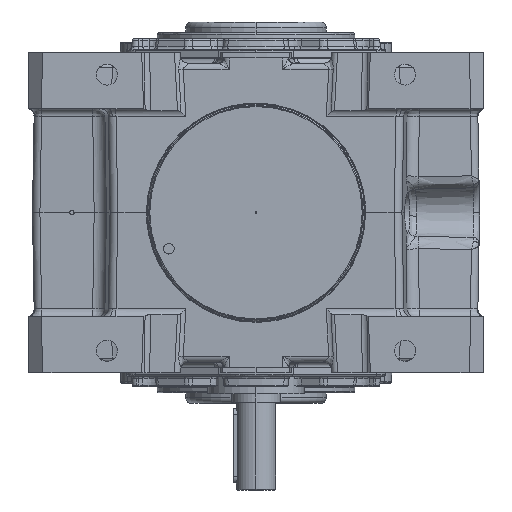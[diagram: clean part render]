
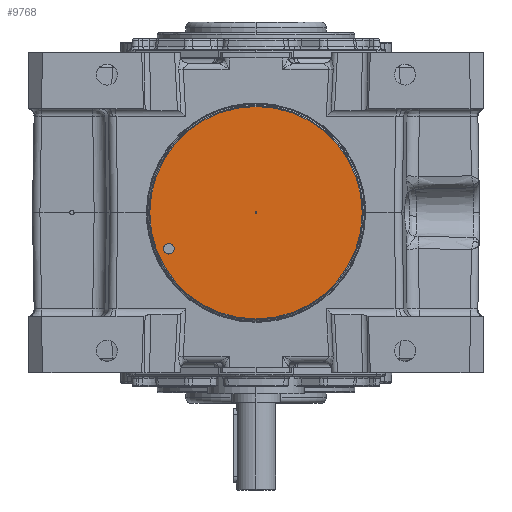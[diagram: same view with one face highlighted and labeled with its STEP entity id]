
A CAD part, left-side view. The second image highlights one B-rep face of the part: STEP entity #9768.
In plain terms, the highlighted planar face has unit normal (-1, 0, 0).
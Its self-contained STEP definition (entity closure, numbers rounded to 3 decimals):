
#298 = EDGE_LOOP ( 'NONE', ( #149931, #74817 ) ) ;
#4830 = VERTEX_POINT ( 'NONE', #123179 ) ;
#5015 = AXIS2_PLACEMENT_3D ( 'NONE', #71319, #137658, #110958 ) ;
#6379 = DIRECTION ( 'NONE',  ( 0., 0., 1. ) ) ;
#9768 = ADVANCED_FACE ( 'NONE', ( #154770, #22874, #26239 ), #141822, .T. ) ;
#10217 = VERTEX_POINT ( 'NONE', #125062 ) ;
#14988 = CARTESIAN_POINT ( 'NONE',  ( -604., 0., 0. ) ) ;
#16190 = AXIS2_PLACEMENT_3D ( 'NONE', #131406, #156441, #38344 ) ;
#17601 = DIRECTION ( 'NONE',  ( -1., 0., 0. ) ) ;
#17838 = EDGE_LOOP ( 'NONE', ( #75613, #167399 ) ) ;
#22874 = FACE_OUTER_BOUND ( 'NONE', #17838, .T. ) ;
#26239 = FACE_BOUND ( 'NONE', #298, .T. ) ;
#28673 = EDGE_CURVE ( 'NONE', #126258, #4830, #107762, .T. ) ;
#38344 = DIRECTION ( 'NONE',  ( 0., 0., 1. ) ) ;
#39095 = EDGE_CURVE ( 'NONE', #10217, #121049, #153656, .T. ) ;
#40111 = CARTESIAN_POINT ( 'NONE',  ( -604., 0., 0. ) ) ;
#45264 = EDGE_CURVE ( 'NONE', #90078, #124702, #115983, .T. ) ;
#48253 = ORIENTED_EDGE ( 'NONE', *, *, #39095, .F. ) ;
#51817 = AXIS2_PLACEMENT_3D ( 'NONE', #124433, #17601, #6379 ) ;
#54628 = DIRECTION ( 'NONE',  ( 0., 0., 1. ) ) ;
#57480 = AXIS2_PLACEMENT_3D ( 'NONE', #103107, #116010, #141891 ) ;
#60886 = AXIS2_PLACEMENT_3D ( 'NONE', #64146, #76239, #132189 ) ;
#64146 = CARTESIAN_POINT ( 'NONE',  ( -604., 0., 0. ) ) ;
#65173 = CARTESIAN_POINT ( 'NONE',  ( -604., 99.317, -47.138 ) ) ;
#69887 = EDGE_LOOP ( 'NONE', ( #48253, #83537 ) ) ;
#70244 = DIRECTION ( 'NONE',  ( 0., 0., 1. ) ) ;
#71319 = CARTESIAN_POINT ( 'NONE',  ( -604., 99.317, -41.138 ) ) ;
#74794 = AXIS2_PLACEMENT_3D ( 'NONE', #40111, #159916, #70244 ) ;
#74817 = ORIENTED_EDGE ( 'NONE', *, *, #95892, .T. ) ;
#75613 = ORIENTED_EDGE ( 'NONE', *, *, #45264, .T. ) ;
#76239 = DIRECTION ( 'NONE',  ( -1., 0., 0. ) ) ;
#76669 = CIRCLE ( 'NONE', #57480, 1. ) ;
#83537 = ORIENTED_EDGE ( 'NONE', *, *, #94307, .F. ) ;
#90078 = VERTEX_POINT ( 'NONE', #122769 ) ;
#94307 = EDGE_CURVE ( 'NONE', #121049, #10217, #131525, .T. ) ;
#95892 = EDGE_CURVE ( 'NONE', #4830, #126258, #76669, .T. ) ;
#103107 = CARTESIAN_POINT ( 'NONE',  ( -604., 0., 0. ) ) ;
#105044 = EDGE_CURVE ( 'NONE', #124702, #90078, #135714, .T. ) ;
#107762 = CIRCLE ( 'NONE', #74794, 1. ) ;
#110958 = DIRECTION ( 'NONE',  ( 0., 0., 1. ) ) ;
#115983 = CIRCLE ( 'NONE', #60886, 121.156 ) ;
#116010 = DIRECTION ( 'NONE',  ( 1., 0., 0. ) ) ;
#121049 = VERTEX_POINT ( 'NONE', #65173 ) ;
#122769 = CARTESIAN_POINT ( 'NONE',  ( -604., 0., 121.156 ) ) ;
#123179 = CARTESIAN_POINT ( 'NONE',  ( -604., 0., -1. ) ) ;
#124433 = CARTESIAN_POINT ( 'NONE',  ( -604., 99.317, -41.138 ) ) ;
#124702 = VERTEX_POINT ( 'NONE', #143706 ) ;
#125062 = CARTESIAN_POINT ( 'NONE',  ( -604., 99.317, -35.138 ) ) ;
#126258 = VERTEX_POINT ( 'NONE', #166871 ) ;
#131406 = CARTESIAN_POINT ( 'NONE',  ( -604., 0., 0. ) ) ;
#131525 = CIRCLE ( 'NONE', #51817, 6. ) ;
#132189 = DIRECTION ( 'NONE',  ( 0., 0., 1. ) ) ;
#135714 = CIRCLE ( 'NONE', #141246, 121.156 ) ;
#137658 = DIRECTION ( 'NONE',  ( -1., 0., 0. ) ) ;
#141246 = AXIS2_PLACEMENT_3D ( 'NONE', #14988, #148564, #54628 ) ;
#141822 = PLANE ( 'NONE',  #16190 ) ;
#141891 = DIRECTION ( 'NONE',  ( 0., 0., 1. ) ) ;
#143706 = CARTESIAN_POINT ( 'NONE',  ( -604., 0., -121.156 ) ) ;
#148564 = DIRECTION ( 'NONE',  ( -1., 0., 0. ) ) ;
#149931 = ORIENTED_EDGE ( 'NONE', *, *, #28673, .T. ) ;
#153656 = CIRCLE ( 'NONE', #5015, 6. ) ;
#154770 = FACE_BOUND ( 'NONE', #69887, .T. ) ;
#156441 = DIRECTION ( 'NONE',  ( -1., 0., 0. ) ) ;
#159916 = DIRECTION ( 'NONE',  ( 1., 0., 0. ) ) ;
#166871 = CARTESIAN_POINT ( 'NONE',  ( -604., 0., 1. ) ) ;
#167399 = ORIENTED_EDGE ( 'NONE', *, *, #105044, .T. ) ;
